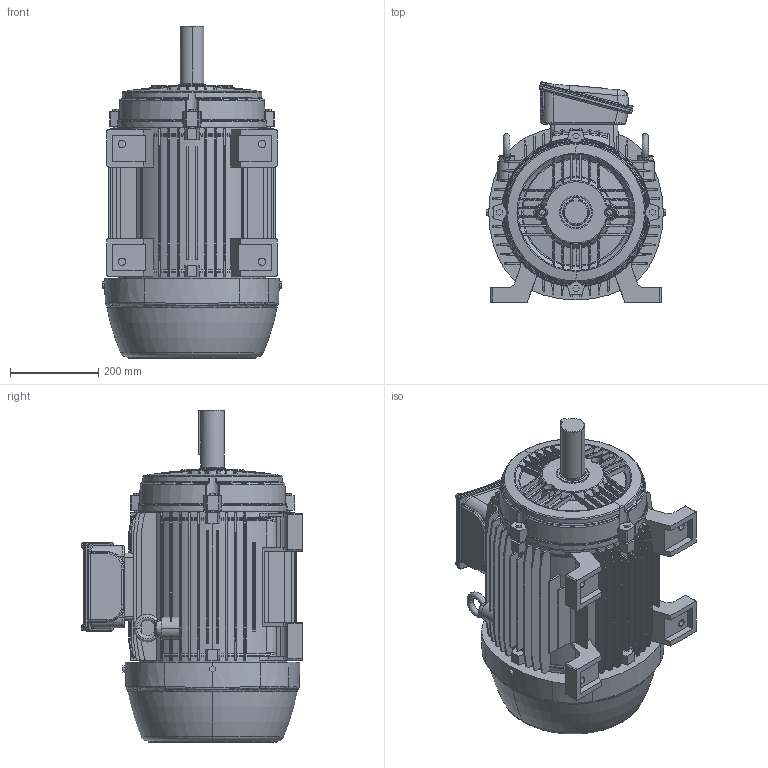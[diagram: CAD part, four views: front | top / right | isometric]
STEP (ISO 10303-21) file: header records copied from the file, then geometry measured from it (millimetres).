
FILE_DESCRIPTION (( 'STEP AP203' ), '1' );
FILE_NAME ('324T_TOP.STEP', '2006-08-07T13:15:34', ( 'Weg Industrias S.A.' ), ( 'Weg Industrias S.A.' ), 'SwSTEP 2.0', 'SolidWorks 2006104', '' );
FILE_SCHEMA (( 'CONFIG_CONTROL_DESIGN' ));
Length unit declared in the file: millimetre
Products named in the file (1): 324T_TOP
Bounding box: 406 x 499.44 x 751.2 mm (x, y, z)
Volume: 63684232.5 mm3; surface area: 1902138.5 mm2
Topology: 1 solids, 2 shells, 2090 faces, 5717 edges, 3656 vertices
Faces by surface type: plane 825, cylinder 492, bspline 250, torus 250, cone 195, sphere 78
Entity records: 159976 total; most frequent: CARTESIAN_POINT 109611, ORIENTED_EDGE 11418, DIRECTION 9643, EDGE_CURVE 5709, AXIS2_PLACEMENT_3D 3662, VERTEX_POINT 3656, VECTOR 2319, LINE 2319
